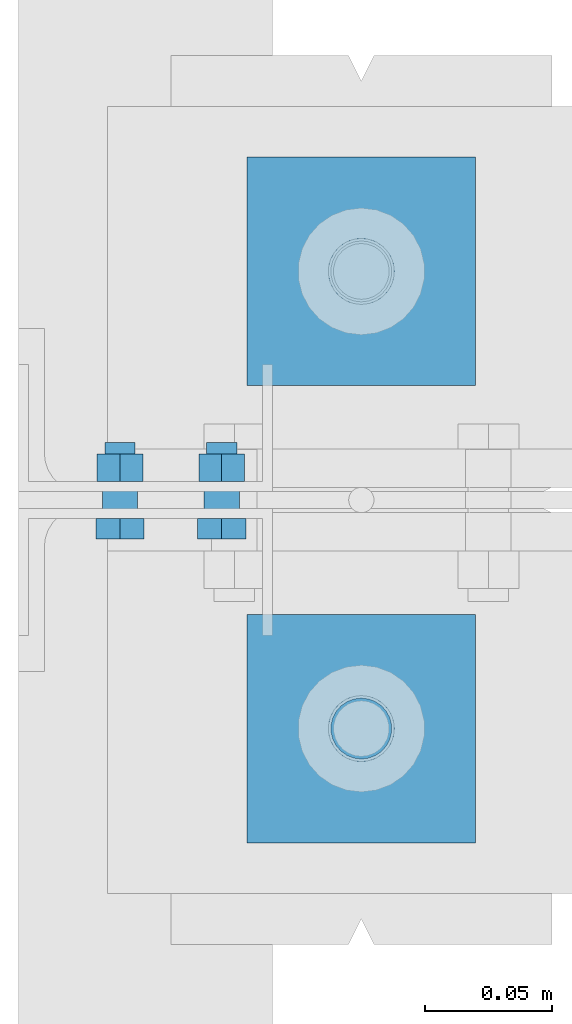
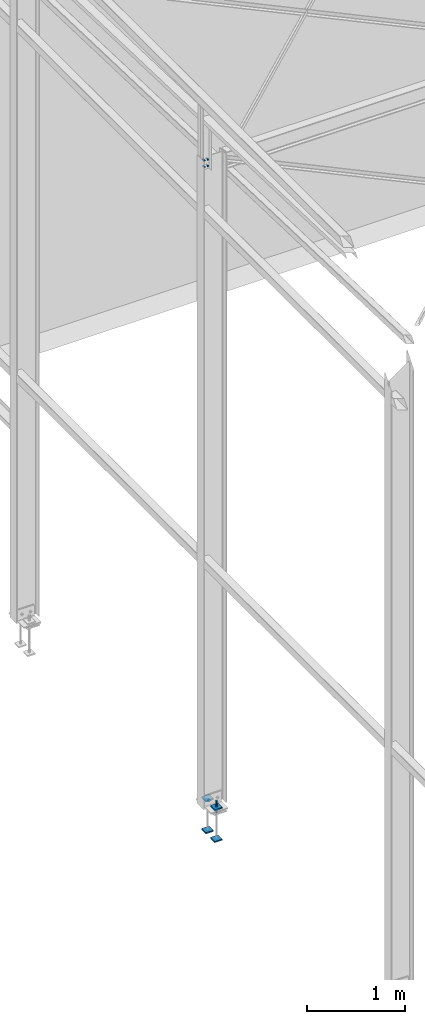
# One storey, part 66 of 123: 5 discrete accessories, 2 mechanical fasteners, 2 elements without a shape of their own.
"""IFC2X3 building model written with IfcOpenShell, lengths in millimetres."""

from ifc_helpers import new_model, si_unit, frame, origin_with_axes, origin_2d_with_axis, place, context, subcontext, project, spatial, polyline, circle, outline, extrude, source, transform, mapped, material, type_object, element, aggregate, save


model = new_model("IFC2X3")

# Units and contexts
model_context = context("Model", 3, precision=1e-05, world=origin_with_axes())
body_context = subcontext(model_context, "Body", "Model", "MODEL_VIEW")
ifc_project = project(units=[si_unit("LENGTHUNIT", "METRE", prefix="MILLI"), si_unit("AREAUNIT", "SQUARE_METRE"), si_unit("VOLUMEUNIT", "CUBIC_METRE"), si_unit("MASSUNIT", "GRAM", prefix="KILO"), si_unit("TIMEUNIT", "SECOND"), si_unit("PLANEANGLEUNIT", "RADIAN"), si_unit("SOLIDANGLEUNIT", "STERADIAN"), si_unit("THERMODYNAMICTEMPERATUREUNIT", "DEGREE_CELSIUS"), si_unit("LUMINOUSINTENSITYUNIT", "LUMEN")], contexts=[model_context])

# Site, building, storey
site_placement = place(None, origin_with_axes())
site = spatial("IfcSite", under=ifc_project, at=site_placement, Name="Undefined", CompositionType="ELEMENT")
building_placement = place(site_placement, origin_with_axes())
building = spatial("IfcBuilding", under=site, at=building_placement, Name="Undefined", CompositionType="ELEMENT")
storey_placement = place(building_placement, origin_with_axes())
storey = spatial("IfcBuildingStorey", under=building, at=storey_placement, Name="Undefined", CompositionType="ELEMENT", Elevation=0.0)

# Assembly, mechanical fastener
assembly_1_placement = place(storey_placement, origin_with_axes())
assembly_1 = element("IfcElementAssembly", 1, at=assembly_1_placement, inside=storey, Name="Steel Assembly", AssemblyPlace="NOTDEFINED", PredefinedType="RIGID_FRAME")
ifc_material_1 = material(Name="8.8-SB-Z")
discrete_accessory_type_1 = type_object("IfcDiscreteAccessoryType", Name="Bolt assembly")
shared_shape_1 = source(origin_with_axes(), body_context, "Body", "SweptSolid", [
    extrude(circle(Radius=7.0, at=origin_2d_with_axis()), frame((0.0, -3.29999995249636, 0.0), z_axis=(0.0, 1.0, 0.0), x_axis=(1.0, 0.0, 0.0)), (0.0, 0.0, 1.0), 6.6),
    extrude(circle(Radius=7.0, at=origin_2d_with_axis()), frame((0.0, 3.19999995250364, 0.0), z_axis=(0.0, 1.0, 0.0), x_axis=(1.0, 0.0, 0.0)), (0.0, 0.0, 1.0), 4.1),
    extrude(circle(Radius=7.0, at=origin_2d_with_axis()), frame((0.0, -7.1999999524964, 0.0), z_axis=(0.0, 1.0, 0.0), x_axis=(1.0, 0.0, 0.0)), (0.0, 0.0, 1.0), 4.0),
    extrude(outline(polyline([(10.96965511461, 0.0), (5.484827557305, 9.50000000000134), (-5.484827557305, 9.50000000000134), (-10.96965511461, 0.0), (-5.484827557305, -9.50000000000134), (5.484827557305, -9.50000000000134), (10.96965511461, 0.0)])), frame((0.0, -15.2999999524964, 0.0), z_axis=(0.0, 1.0, 0.0), x_axis=(1.0, 0.0, 0.0)), (0.0, 0.0, 1.0), 8.0),
    extrude(circle(Radius=6.0, at=origin_2d_with_axis()), frame((0.0, -7.29999995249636, 0.0), z_axis=(0.0, 1.0, 0.0), x_axis=(1.0, 0.0, 0.0)), (0.0, 0.0, 1.0), 30.0),
    extrude(outline(polyline([(10.39230484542, 0.0), (5.19615242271, 9.00000000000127), (-5.19615242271, 9.00000000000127), (-10.39230484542, 0.0), (-5.19615242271, -9.00000000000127), (5.19615242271, -9.00000000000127), (10.39230484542, 0.0)])), frame((0.0, 7.29999995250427, 0.0), z_axis=(0.0, 1.0, 0.0), x_axis=(1.0, 0.0, 0.0)), (0.0, 0.0, 1.0), 10.8),
])
mechanical_fastener_1_placement = place(assembly_1_placement, frame((-120.000001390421, 7600.0, 7690.00041024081), z_axis=(-1.0, 0.0, 0.0), x_axis=(0.0, 0.0, 1.0)))
mechanical_fastener_1 = element("IfcMechanicalFastener", 2, at=mechanical_fastener_1_placement, type_object=discrete_accessory_type_1, material=ifc_material_1, Name="Bolt assembly", NominalDiameter=12.0, NominalLength=30.0, context=body_context, shape_type="MappedRepresentation", body=[
    mapped(shared_shape_1, transform((0.0, 0.0, -20.0))),
    mapped(shared_shape_1, transform((80.0, 0.0, -20.0))),
    mapped(shared_shape_1, transform((0.0, 0.0, 20.0))),
    mapped(shared_shape_1, transform((80.0, 0.0, 20.0))),
])
aggregate(assembly_1, [mechanical_fastener_1])

# Assembly, mechanical fastener, discrete accessories
assembly_2_placement = place(storey_placement, origin_with_axes())
assembly_2 = element("IfcElementAssembly", 3, at=assembly_2_placement, inside=storey, Name="Steel Assembly", AssemblyPlace="NOTDEFINED", PredefinedType="RIGID_FRAME")
ifc_material_2 = material(Name="6.8")
shared_shape_2 = source(origin_with_axes(), body_context, "Body", "SweptSolid", [
    extrude(circle(Radius=13.0, at=origin_2d_with_axis()), frame((0.0, 0.0, 0.0), z_axis=(0.0, 1.0, 0.0), x_axis=(1.0, 0.0, 0.0)), (0.0, 0.0, 1.0), 10.1),
])
mechanical_fastener_2_placement = place(assembly_2_placement, frame((-45.0, 7600.00000007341, -250.0), z_axis=(0.0, -1.0, 0.0), x_axis=(-1.0, 0.0, 0.0)))
mechanical_fastener_2 = element("IfcMechanicalFastener", 4, at=mechanical_fastener_2_placement, type_object=discrete_accessory_type_1, material=ifc_material_2, Name="Bolt assembly", NominalDiameter=24.0, NominalLength=10.0, context=body_context, shape_type="MappedRepresentation", body=[
    mapped(shared_shape_2, transform((-4.00177668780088e-11, 0.0, -90.0))),
    mapped(shared_shape_2, transform((4.00177668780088e-11, 0.0, 90.0))),
])
ifc_material_3 = material(Name="STEEL/S235-E24")
discrete_accessory_type_2 = type_object("IfcDiscreteAccessoryType", Name="PLAQUETTE")
discrete_accessory_1_placement = place(assembly_2_placement, frame((0.0, 7554.99715044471, -227.5), z_axis=(0.0, 0.0, 1.0), x_axis=(-1.0, 0.0, 0.0)))
discrete_accessory_1 = element("IfcDiscreteAccessory", 5, at=discrete_accessory_1_placement, type_object=discrete_accessory_type_2, material=ifc_material_3, Name="PLAQUETTE", ObjectType="PL15*90", context=body_context, shape_type="SweptSolid", body=[
    extrude(outline(polyline([(0.0, 0.0), (90.0, 0.0), (90.0, 90.0), (0.0, 90.0), (0.0, 0.0)])), frame((0.0, 0.0, -7.5), z_axis=(0.0, 0.0, 1.0), x_axis=(1.0, 0.0, 0.0)), (0.0, 0.0, 1.0), 15.0),
])
discrete_accessory_2_placement = place(assembly_2_placement, frame((0.0, 7734.99715044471, -227.5), z_axis=(0.0, 0.0, 1.0), x_axis=(-1.0, 0.0, 0.0)))
discrete_accessory_2 = element("IfcDiscreteAccessory", 6, at=discrete_accessory_2_placement, type_object=discrete_accessory_type_2, material=ifc_material_3, Name="PLAQUETTE", ObjectType="PL15*90", context=body_context, shape_type="SweptSolid", body=[
    extrude(outline(polyline([(0.0, 0.0), (90.0, 0.0), (90.0, 90.0), (0.0, 90.0), (0.0, 0.0)])), frame((0.0, 0.0, -7.5), z_axis=(0.0, 0.0, 1.0), x_axis=(1.0, 0.0, 0.0)), (0.0, 0.0, 1.0), 15.0),
])
discrete_accessory_3_placement = place(assembly_2_placement, frame((0.0, 7554.99715044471, -622.5), z_axis=(0.0, 0.0, 1.0), x_axis=(-1.0, 0.0, 0.0)))
discrete_accessory_3 = element("IfcDiscreteAccessory", 7, at=discrete_accessory_3_placement, type_object=discrete_accessory_type_2, material=ifc_material_3, Name="PLAQUETTE", ObjectType="PL15*90", context=body_context, shape_type="SweptSolid", body=[
    extrude(outline(polyline([(0.0, 0.0), (90.0, 0.0), (90.0, 90.0), (0.0, 90.0), (0.0, 0.0)])), frame((0.0, 0.0, -7.5), z_axis=(0.0, 0.0, 1.0), x_axis=(1.0, 0.0, 0.0)), (0.0, 0.0, 1.0), 15.0),
])
discrete_accessory_4_placement = place(assembly_2_placement, frame((0.0, 7734.99715044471, -622.5), z_axis=(0.0, 0.0, 1.0), x_axis=(-1.0, 0.0, 0.0)))
discrete_accessory_4 = element("IfcDiscreteAccessory", 8, at=discrete_accessory_4_placement, type_object=discrete_accessory_type_2, material=ifc_material_3, Name="PLAQUETTE", ObjectType="PL15*90", context=body_context, shape_type="SweptSolid", body=[
    extrude(outline(polyline([(0.0, 0.0), (90.0, 0.0), (90.0, 90.0), (0.0, 90.0), (0.0, 0.0)])), frame((0.0, 0.0, -7.5), z_axis=(0.0, 0.0, 1.0), x_axis=(1.0, 0.0, 0.0)), (0.0, 0.0, 1.0), 15.0),
])
discrete_accessory_type_3 = type_object("IfcDiscreteAccessoryType", Name="TIGE D'ANCRAGE")
discrete_accessory_5_placement = place(assembly_2_placement, frame((-45.0, 7509.99715044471, -150.0), z_axis=(-1.0, 0.0, 0.0), x_axis=(0.0, 0.0, -1.0)))
discrete_accessory_5 = element("IfcDiscreteAccessory", 9, at=discrete_accessory_5_placement, type_object=discrete_accessory_type_3, material=ifc_material_3, Name="TIGE D'ANCRAGE", ObjectType="D24", context=body_context, shape_type="SweptSolid", body=[
    extrude(circle(Radius=12.0, at=origin_2d_with_axis()), frame((150.0, 0.0, 0.0), z_axis=(-1.0, 0.0, 0.0), x_axis=(0.0, -1.0, 0.0)), (0.0, 0.0, 1.0), 150.0),
])
aggregate(assembly_2, [mechanical_fastener_2, discrete_accessory_1, discrete_accessory_2, discrete_accessory_3, discrete_accessory_4, discrete_accessory_5])

save(model, "model.ifc")
